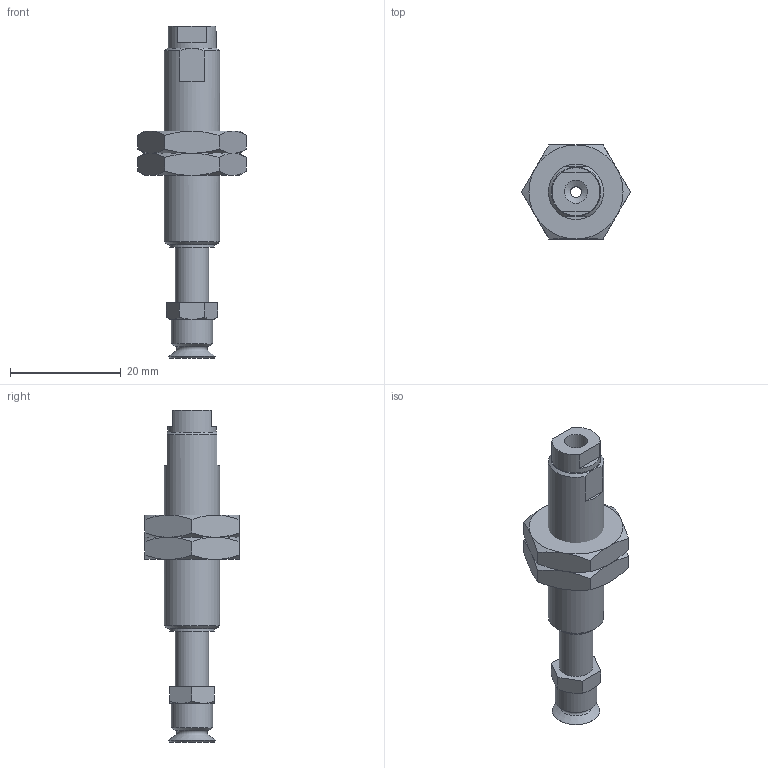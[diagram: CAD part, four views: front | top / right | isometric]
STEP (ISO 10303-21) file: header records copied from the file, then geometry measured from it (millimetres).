
FILE_DESCRIPTION(('STEP AP203'),'1');
FILE_NAME('-LB.stp','2025-04-10T08:05:38',(' '),(' '),'Spatial InterOp 3D',' ',' ');
FILE_SCHEMA(('CONFIG_CONTROL_DESIGN'));
Length unit declared in the file: millimetre
Products named in the file (8): BNABPFTH-8A-10-※-LB; __; BODY; NUT; TN-PS-10-M5; Setting screws-TN-PS-10-M5; BPFG-8A-※
Assembly tree (7 placements, depth 3):
  BNABPFTH-8A-10-※-LB
    __
    BODY
    NUT
    NUT
    TN-PS-10-M5
      Setting screws-TN-PS-10-M5
    BPFG-8A-※
Bounding box: 19.63 x 17 x 60 mm (x, y, z)
Volume: 4932.7 mm3; surface area: 4210.9 mm2
Topology: 6 solids, 6 shells, 126 faces, 267 edges, 160 vertices
Faces by surface type: plane 57, cone 41, cylinder 18, torus 9, bspline 1
Full cylindrical faces by diameter (mm): 2 x3, 3.9 x1, 4 x2, 4.2 x2, 5 x1, 6 x3, 7.5 x1, 8 x1, 8.7 x1, 9 x2, 10 x1
Entity records: 3637 total; most frequent: CARTESIAN_POINT 768, DIRECTION 522, ORIENTED_EDGE 444, AXIS2_PLACEMENT_3D 230, EDGE_CURVE 222, EDGE_LOOP 182, FACE_OUTER_BOUND 154, VERTEX_POINT 152
